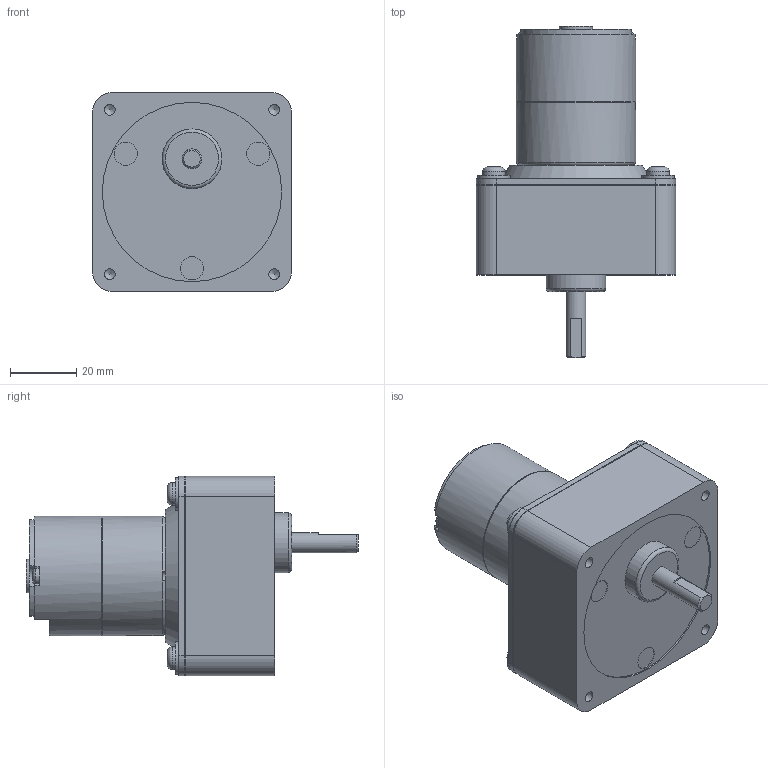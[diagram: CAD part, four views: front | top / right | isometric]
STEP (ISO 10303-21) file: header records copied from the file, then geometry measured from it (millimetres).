
FILE_DESCRIPTION((''),'2;1');
FILE_NAME('C:\Documents and Settings\SSEGAWA\デスクトップ\TP-3641A-CE.STP','2013-07-30T23:12:41',('SSEGAWA'),(''),'Autodesk Inventor 2010','Autodesk Inventor 2010','');
FILE_SCHEMA(('CONFIG_CONTROL_DESIGN'));
Length unit declared in the file: millimetre
Products named in the file (1): tp_3641abcde_ce_Shrinkwrap_1
Bounding box: 60 x 100 x 60 mm (x, y, z)
Volume: 150482.9 mm3; surface area: 20945 mm2
Topology: 1 solids, 8 shells, 212 faces, 496 edges, 326 vertices
Faces by surface type: plane 116, cylinder 53, bspline 33, torus 8, cone 2
Full cylindrical faces by diameter (mm): 2.5 x1, 5 x1, 6 x1, 6.8 x4, 7 x3, 9.8 x4, 10 x1, 18 x1, 35.6 x1, 36 x2, 54 x1
Entity records: 6179 total; most frequent: CARTESIAN_POINT 1524, DIRECTION 921, ORIENTED_EDGE 808, EDGE_CURVE 404, AXIS2_PLACEMENT_3D 343, EDGE_LOOP 297, VERTEX_POINT 293, VECTOR 235
